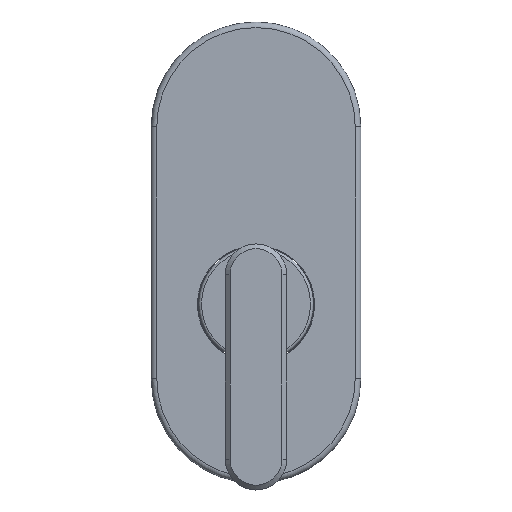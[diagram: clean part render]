
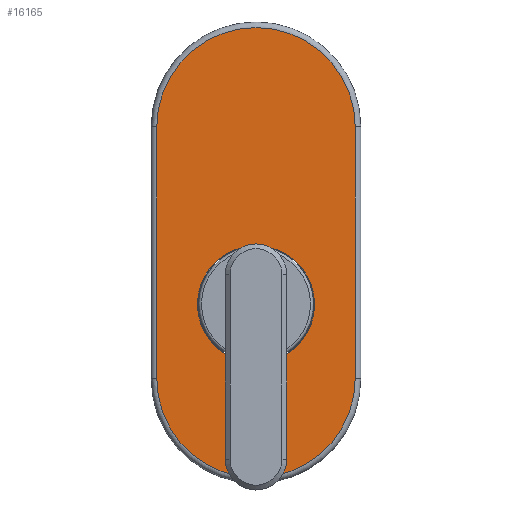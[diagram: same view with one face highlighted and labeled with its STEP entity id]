
A CAD part, top view. The second image highlights one B-rep face of the part: STEP entity #16165.
In plain terms, the highlighted planar face has unit normal (0, 0, 1) as drawn and (0, 1, 0) by its records, which use the part's own axes.
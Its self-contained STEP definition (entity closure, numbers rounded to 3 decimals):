
#9764=DIRECTION('',(0.,0.,-1.));
#9765=VECTOR('',#9764,90.);
#9766=CARTESIAN_POINT('',(35.5,11.5,45.));
#9767=LINE('',#9766,#9765);
#9768=CARTESIAN_POINT('',(0.,11.5,45.));
#9769=DIRECTION('',(0.,1.,0.));
#9770=DIRECTION('',(-1.,0.,0.));
#9771=AXIS2_PLACEMENT_3D('',#9768,#9769,#9770);
#9773=DIRECTION('',(0.,0.,1.));
#9774=VECTOR('',#9773,90.);
#9775=CARTESIAN_POINT('',(-35.5,11.5,-45.));
#9776=LINE('',#9775,#9774);
#9777=CARTESIAN_POINT('',(0.,11.5,-45.));
#9778=DIRECTION('',(0.,1.,0.));
#9779=DIRECTION('',(1.,0.,0.));
#9780=AXIS2_PLACEMENT_3D('',#9777,#9778,#9779);
#9782=CARTESIAN_POINT('',(0.,11.5,18.5));
#9783=DIRECTION('',(0.,-1.,0.));
#9784=DIRECTION('',(-1.,0.,0.));
#9785=AXIS2_PLACEMENT_3D('',#9782,#9783,#9784);
#9787=CARTESIAN_POINT('',(0.,11.5,18.5));
#9788=DIRECTION('',(0.,-1.,0.));
#9789=DIRECTION('',(1.,0.,0.));
#9790=AXIS2_PLACEMENT_3D('',#9787,#9788,#9789);
#14526=CARTESIAN_POINT('',(35.5,11.5,45.));
#14527=CARTESIAN_POINT('',(35.5,11.5,-45.));
#14528=VERTEX_POINT('',#14526);
#14529=VERTEX_POINT('',#14527);
#14534=CARTESIAN_POINT('',(-35.5,11.5,-45.));
#14535=VERTEX_POINT('',#14534);
#14538=CARTESIAN_POINT('',(-35.5,11.5,45.));
#14539=VERTEX_POINT('',#14538);
#14790=CARTESIAN_POINT('',(-20.95,11.5,18.5));
#14791=CARTESIAN_POINT('',(20.95,11.5,18.5));
#14792=VERTEX_POINT('',#14790);
#14793=VERTEX_POINT('',#14791);
#16145=CARTESIAN_POINT('',(0.,11.5,0.));
#16146=DIRECTION('',(0.,1.,0.));
#16147=DIRECTION('',(1.,0.,0.));
#16148=AXIS2_PLACEMENT_3D('',#16145,#16146,#16147);
#16149=PLANE('',#16148);
#16151=ORIENTED_EDGE('',*,*,#16150,.F.);
#16153=ORIENTED_EDGE('',*,*,#16152,.F.);
#16155=ORIENTED_EDGE('',*,*,#16154,.F.);
#16156=ORIENTED_EDGE('',*,*,#16135,.F.);
#16157=EDGE_LOOP('',(#16151,#16153,#16155,#16156));
#16158=FACE_OUTER_BOUND('',#16157,.F.);
#16160=ORIENTED_EDGE('',*,*,#16159,.F.);
#16162=ORIENTED_EDGE('',*,*,#16161,.F.);
#16163=EDGE_LOOP('',(#16160,#16162));
#16164=FACE_BOUND('',#16163,.F.);
#16165=ADVANCED_FACE('',(#16158,#16164),#16149,.T.);
#9772=CIRCLE('',#9771,35.5);
#9781=CIRCLE('',#9780,35.5);
#9786=CIRCLE('',#9785,20.95);
#9791=CIRCLE('',#9790,20.95);
#16135=EDGE_CURVE('',#14529,#14535,#9781,.T.);
#16150=EDGE_CURVE('',#14528,#14529,#9767,.T.);
#16152=EDGE_CURVE('',#14539,#14528,#9772,.T.);
#16154=EDGE_CURVE('',#14535,#14539,#9776,.T.);
#16159=EDGE_CURVE('',#14792,#14793,#9786,.T.);
#16161=EDGE_CURVE('',#14793,#14792,#9791,.T.);
